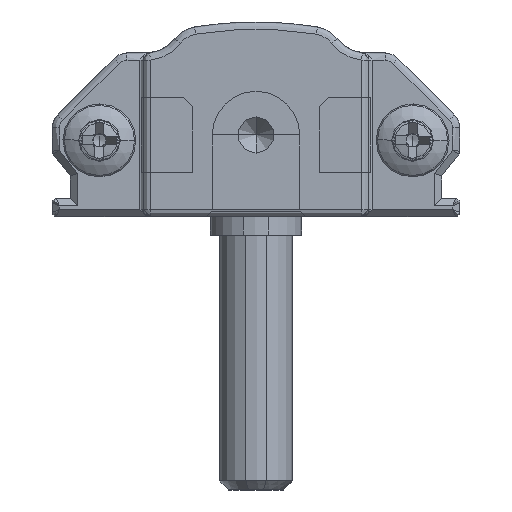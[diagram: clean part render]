
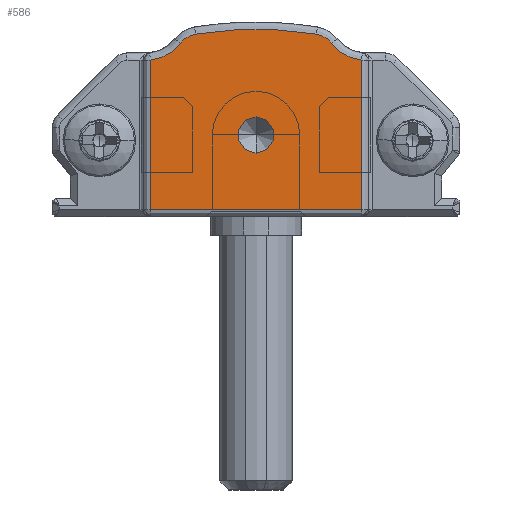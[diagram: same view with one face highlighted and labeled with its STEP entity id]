
A CAD part, front view. The second image highlights one B-rep face of the part: STEP entity #586.
In plain terms, the highlighted planar face has unit normal (0, -1, 0).
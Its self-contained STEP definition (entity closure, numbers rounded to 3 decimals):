
#202 = DIRECTION ( 'NONE',  ( 1., 0., 0. ) ) ;
#437 = VERTEX_POINT ( 'NONE', #23407 ) ;
#448 = DIRECTION ( 'NONE',  ( 0., 0., -1. ) ) ;
#586 = ADVANCED_FACE ( 'NONE', ( #17070, #6620 ), #2068, .T. ) ;
#615 = LINE ( 'NONE', #7073, #26693 ) ;
#653 = CARTESIAN_POINT ( 'NONE',  ( 14.3, -15., 8.75 ) ) ;
#1179 = EDGE_CURVE ( 'NONE', #25712, #437, #23030, .T. ) ;
#1317 = EDGE_CURVE ( 'NONE', #20829, #22875, #13157, .T. ) ;
#1418 = ORIENTED_EDGE ( 'NONE', *, *, #1317, .T. ) ;
#1556 = EDGE_LOOP ( 'NONE', ( #16072, #21479, #6403, #14847, #9110, #8927, #8764, #1418 ) ) ;
#1779 = EDGE_CURVE ( 'NONE', #22875, #16529, #20604, .T. ) ;
#2068 = PLANE ( 'NONE',  #18307 ) ;
#2120 = VECTOR ( 'NONE', #202, 1000. ) ;
#2452 = VERTEX_POINT ( 'NONE', #6685 ) ;
#2836 = VECTOR ( 'NONE', #5109, 1000. ) ;
#3241 = EDGE_CURVE ( 'NONE', #16529, #17342, #16524, .T. ) ;
#3809 = DIRECTION ( 'NONE',  ( 0., -1., 0. ) ) ;
#4071 = DIRECTION ( 'NONE',  ( 0., 1., 0. ) ) ;
#4170 = ORIENTED_EDGE ( 'NONE', *, *, #19228, .F. ) ;
#4620 = AXIS2_PLACEMENT_3D ( 'NONE', #17253, #29822, #12035 ) ;
#5109 = DIRECTION ( 'NONE',  ( 0., 0., 1. ) ) ;
#5164 = AXIS2_PLACEMENT_3D ( 'NONE', #14862, #6604, #19572 ) ;
#6403 = ORIENTED_EDGE ( 'NONE', *, *, #17395, .T. ) ;
#6604 = DIRECTION ( 'NONE',  ( 0., -1., 0. ) ) ;
#6620 = FACE_BOUND ( 'NONE', #8354, .T. ) ;
#6659 = CIRCLE ( 'NONE', #31844, 1. ) ;
#6685 = CARTESIAN_POINT ( 'NONE',  ( 5.4, -15., 8.612 ) ) ;
#6959 = DIRECTION ( 'NONE',  ( 0., 0., -1. ) ) ;
#7073 = CARTESIAN_POINT ( 'NONE',  ( 5.4, -15., 0.4 ) ) ;
#7875 = ORIENTED_EDGE ( 'NONE', *, *, #22920, .F. ) ;
#7992 = DIRECTION ( 'NONE',  ( 0., -1., 0. ) ) ;
#8231 = DIRECTION ( 'NONE',  ( 0., 0., -1. ) ) ;
#8354 = EDGE_LOOP ( 'NONE', ( #4170, #7875 ) ) ;
#8557 = AXIS2_PLACEMENT_3D ( 'NONE', #15761, #7992, #18249 ) ;
#8764 = ORIENTED_EDGE ( 'NONE', *, *, #14781, .T. ) ;
#8927 = ORIENTED_EDGE ( 'NONE', *, *, #21632, .T. ) ;
#9110 = ORIENTED_EDGE ( 'NONE', *, *, #1179, .T. ) ;
#9954 = DIRECTION ( 'NONE',  ( 0., 0., -1. ) ) ;
#10721 = CARTESIAN_POINT ( 'NONE',  ( 17., -15., 0.4 ) ) ;
#10787 = AXIS2_PLACEMENT_3D ( 'NONE', #22256, #4071, #6959 ) ;
#11010 = CARTESIAN_POINT ( 'NONE',  ( 11.2, -15., 3.5 ) ) ;
#12035 = DIRECTION ( 'NONE',  ( 0., 0., -1. ) ) ;
#12168 = CARTESIAN_POINT ( 'NONE',  ( 22.15, -15., 3.606 ) ) ;
#12545 = CARTESIAN_POINT ( 'NONE',  ( 14.508, -15., 10.034 ) ) ;
#13157 = LINE ( 'NONE', #21204, #2120 ) ;
#13434 = EDGE_CURVE ( 'NONE', #20849, #25712, #18088, .T. ) ;
#14460 = CARTESIAN_POINT ( 'NONE',  ( 17., -15., 8.612 ) ) ;
#14781 = EDGE_CURVE ( 'NONE', #2452, #20829, #615, .T. ) ;
#14847 = ORIENTED_EDGE ( 'NONE', *, *, #13434, .T. ) ;
#14862 = CARTESIAN_POINT ( 'NONE',  ( 11.2, -15., -10.376 ) ) ;
#15761 = CARTESIAN_POINT ( 'NONE',  ( 8.1, -15., 8.75 ) ) ;
#16072 = ORIENTED_EDGE ( 'NONE', *, *, #1779, .T. ) ;
#16524 = CIRCLE ( 'NONE', #4620, 2.4 ) ;
#16529 = VERTEX_POINT ( 'NONE', #14460 ) ;
#17070 = FACE_OUTER_BOUND ( 'NONE', #1556, .T. ) ;
#17253 = CARTESIAN_POINT ( 'NONE',  ( 17.238, -15., 11. ) ) ;
#17342 = VERTEX_POINT ( 'NONE', #23166 ) ;
#17395 = EDGE_CURVE ( 'NONE', #17342, #20849, #21050, .T. ) ;
#18088 = CIRCLE ( 'NONE', #5164, 20.676 ) ;
#18249 = DIRECTION ( 'NONE',  ( 0., 0., -1. ) ) ;
#18307 = AXIS2_PLACEMENT_3D ( 'NONE', #12168, #27065, #22412 ) ;
#19228 = EDGE_CURVE ( 'NONE', #32896, #24002, #28854, .T. ) ;
#19572 = DIRECTION ( 'NONE',  ( 0., 0., -1. ) ) ;
#20193 = CARTESIAN_POINT ( 'NONE',  ( 11.2, -15., 4.5 ) ) ;
#20604 = LINE ( 'NONE', #33209, #2836 ) ;
#20829 = VERTEX_POINT ( 'NONE', #27466 ) ;
#20849 = VERTEX_POINT ( 'NONE', #12545 ) ;
#21050 = CIRCLE ( 'NONE', #24747, 1.3 ) ;
#21204 = CARTESIAN_POINT ( 'NONE',  ( 17., -15., 0.4 ) ) ;
#21479 = ORIENTED_EDGE ( 'NONE', *, *, #3241, .T. ) ;
#21632 = EDGE_CURVE ( 'NONE', #437, #2452, #25230, .T. ) ;
#22256 = CARTESIAN_POINT ( 'NONE',  ( 5.162, -15., 11. ) ) ;
#22412 = DIRECTION ( 'NONE',  ( 0., 0., -1. ) ) ;
#22425 = CARTESIAN_POINT ( 'NONE',  ( 11.2, -15., 5.5 ) ) ;
#22875 = VERTEX_POINT ( 'NONE', #10721 ) ;
#22920 = EDGE_CURVE ( 'NONE', #24002, #32896, #6659, .T. ) ;
#23030 = CIRCLE ( 'NONE', #8557, 1.3 ) ;
#23166 = CARTESIAN_POINT ( 'NONE',  ( 15.332, -15., 9.541 ) ) ;
#23407 = CARTESIAN_POINT ( 'NONE',  ( 7.068, -15., 9.541 ) ) ;
#23474 = AXIS2_PLACEMENT_3D ( 'NONE', #20193, #27862, #9954 ) ;
#24002 = VERTEX_POINT ( 'NONE', #22425 ) ;
#24747 = AXIS2_PLACEMENT_3D ( 'NONE', #653, #3809, #8231 ) ;
#25230 = CIRCLE ( 'NONE', #10787, 2.4 ) ;
#25712 = VERTEX_POINT ( 'NONE', #26729 ) ;
#25954 = CARTESIAN_POINT ( 'NONE',  ( 11.2, -15., 4.5 ) ) ;
#26693 = VECTOR ( 'NONE', #27543, 1000. ) ;
#26729 = CARTESIAN_POINT ( 'NONE',  ( 7.892, -15., 10.034 ) ) ;
#27065 = DIRECTION ( 'NONE',  ( 0., -1., 0. ) ) ;
#27466 = CARTESIAN_POINT ( 'NONE',  ( 5.4, -15., 0.4 ) ) ;
#27543 = DIRECTION ( 'NONE',  ( 0., 0., -1. ) ) ;
#27862 = DIRECTION ( 'NONE',  ( 0., -1., 0. ) ) ;
#28854 = CIRCLE ( 'NONE', #23474, 1. ) ;
#29822 = DIRECTION ( 'NONE',  ( 0., 1., 0. ) ) ;
#31359 = DIRECTION ( 'NONE',  ( 0., -1., 0. ) ) ;
#31844 = AXIS2_PLACEMENT_3D ( 'NONE', #25954, #31359, #448 ) ;
#32896 = VERTEX_POINT ( 'NONE', #11010 ) ;
#33209 = CARTESIAN_POINT ( 'NONE',  ( 17., -15., 8.612 ) ) ;
